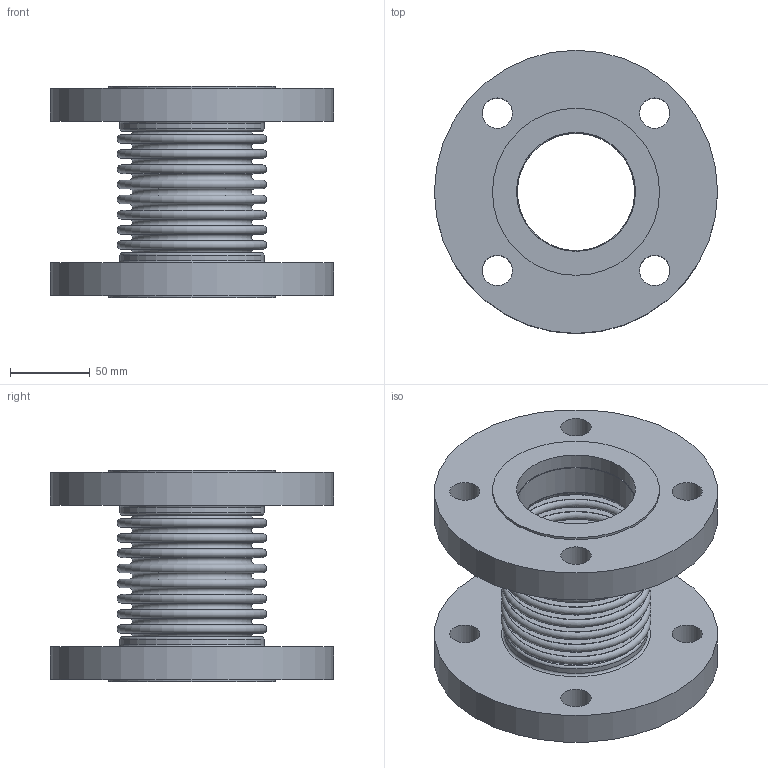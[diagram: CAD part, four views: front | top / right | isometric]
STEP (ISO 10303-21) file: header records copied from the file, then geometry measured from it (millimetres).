
FILE_DESCRIPTION(/* description */ ('EXPANSION JOINT,SINGLE, FLANGED ENDS,2 1/2 INCH NOMINAL','CAx-IF Rec.Pracs.---Representation and Presentation of Product Manufacturing Information (PMI)---4.0---2014-10-13'),/* implementation_level */ '2;1');
FILE_NAME(/* name */ 'US-02.5-8-150S-FLANGED ENDS.stp',/* time_stamp */ '2026-07-31T16:37:50-05:00',/* author */ ('Guadalupe'),/* organization */ (''),/* preprocessor_version */ 'ST-DEVELOPER v20.1',/* originating_system */ 'Autodesk Inventor 2026',/* authorisation */ '');
FILE_SCHEMA (('AP242_MANAGED_MODEL_BASED_3D_ENGINEERING_MIM_LF { 1 0 10303 442 2 1 4 }'));
Length unit declared in the file: inch
Products named in the file (3): 02.5-150S; 02.5-150S-02; 02.5-150S-01
Assembly tree (3 placements, depth 2):
  02.5-150S
    02.5-150S-02  x2
    02.5-150S-01
Bounding box: 177.8 x 177.8 x 133.1 mm (x, y, z)
Volume: 870380.7 mm3; surface area: 249302.7 mm2
Topology: 5 solids, 5 shells, 104 faces, 174 edges, 116 vertices
Faces by surface type: plane 46, torus 38, cylinder 20
Full cylindrical faces by diameter (mm): 19.05 x8, 73.66 x2, 74.676 x2, 74.879 x2, 90.424 x2, 104.902 x2, 177.8 x2
Entity records: 2402 total; most frequent: DIRECTION 494, CARTESIAN_POINT 353, ORIENTED_EDGE 288, AXIS2_PLACEMENT_3D 241, EDGE_CURVE 144, EDGE_LOOP 140, CIRCLE 132, VERTEX_POINT 96
